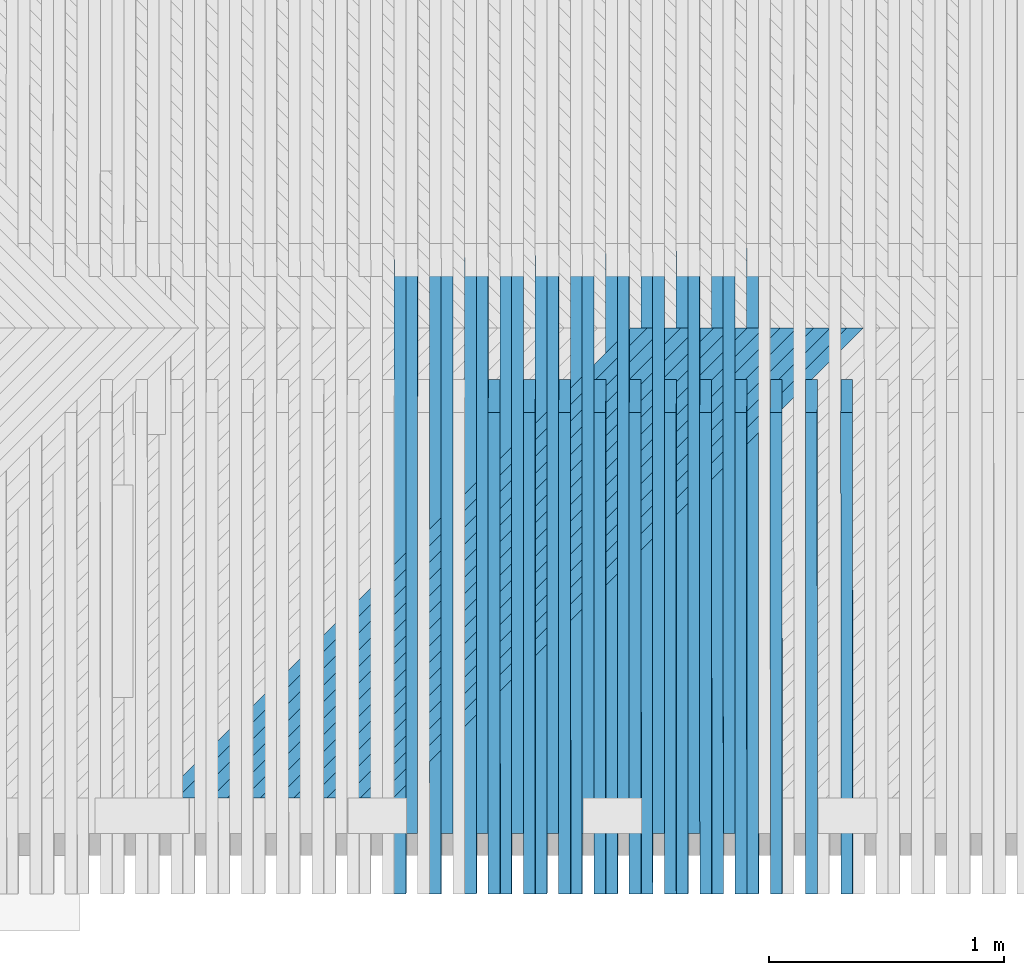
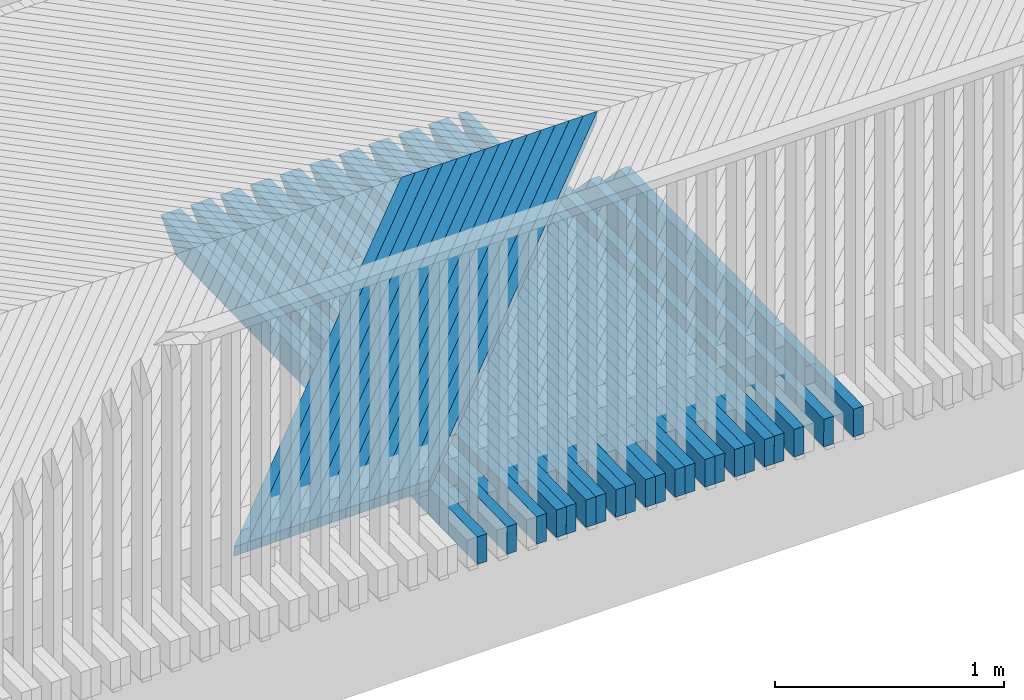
# One storey, part 16 of 47: 46 beams.
"""IFC2X3 building model written with IfcOpenShell, lengths in millimetres."""

from ifc_helpers import new_model, si_unit, frame, origin_with_axes, place, context, subcontext, project, spatial, faceted_brep, material, type_object, element, save


model = new_model("IFC2X3")

# Units and contexts
model_context = context("Model", 3, precision=1e-05, world=origin_with_axes())
body_context = subcontext(model_context, "Body", "Model", "MODEL_VIEW")
ifc_project = project(units=[si_unit("LENGTHUNIT", "METRE", prefix="MILLI"), si_unit("AREAUNIT", "SQUARE_METRE"), si_unit("VOLUMEUNIT", "CUBIC_METRE"), si_unit("MASSUNIT", "GRAM", prefix="KILO"), si_unit("TIMEUNIT", "SECOND"), si_unit("PLANEANGLEUNIT", "RADIAN"), si_unit("SOLIDANGLEUNIT", "STERADIAN"), si_unit("THERMODYNAMICTEMPERATUREUNIT", "DEGREE_CELSIUS"), si_unit("LUMINOUSINTENSITYUNIT", "LUMEN")], contexts=[model_context])

# Site, building, storey
site_placement = place(None, origin_with_axes())
site = spatial("IfcSite", under=ifc_project, at=site_placement, Name="Undefined", CompositionType="ELEMENT")
building_placement = place(site_placement, origin_with_axes())
building = spatial("IfcBuilding", under=site, at=building_placement, Name="Undefined", CompositionType="ELEMENT")
storey_placement = place(building_placement, origin_with_axes())
storey = spatial("IfcBuildingStorey", under=building, at=storey_placement, Name="Undefined", CompositionType="ELEMENT", Elevation=0.0)

# Beams
ifc_material = material(Name="TIMBER/Timber_Undefined")
beam_type_1 = type_object("IfcBeamType", Name="150*50", PredefinedType="NOTDEFINED")
for number, where, z_axis, x_axis, name in (
    (1, (2098.93906252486, 59958.5561921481, 3059.06393570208), (-0.00979842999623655, -0.0199960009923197, 0.999752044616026), (-0.000195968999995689, 0.999800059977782, 0.0199950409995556), "BEAM"),
    (2, (2248.96079964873, 59958.5561921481, 3060.51597974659), (-0.00954925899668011, -0.0199960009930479, 0.999754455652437), (-0.000190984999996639, 0.999800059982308, 0.0199950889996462), "BEAM"),
):
    element("IfcBeam", number, at=place(storey_placement, frame(where, z_axis=z_axis, x_axis=x_axis)), inside=storey, type_object=beam_type_1, material=ifc_material, Name=name, ObjectType="150*50", context=body_context, shape_type="Brep", body=[
        faceted_brep([(6.18456397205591e-09, -24.9999999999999, -75.0000000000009), (-6.1918399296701e-09, -24.9999999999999, 74.9999999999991), (-6.19911588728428e-09, 25.0, 75.0), (6.18456397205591e-09, 24.9999999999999, -75.0), (2633.00494983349, 25.0000000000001, -75.0000000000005), (2633.00495050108, -24.9999999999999, -75.0000000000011), (2768.59248707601, -25.0, 60.5875366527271), (2408.42499905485, -25.0, 74.9999999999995), (2408.42501428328, 25.0000000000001, 74.9999999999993), (2768.5924870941, 25.0, 60.5875375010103)], [[[0, 1, 2, 3]], [[0, 3, 4, 5]], [[1, 0, 5, 6, 7]], [[2, 1, 7, 8]], [[4, 3, 2, 8, 9]], [[5, 4, 9, 6]], [[8, 7, 6, 9]]]),
    ])
beam_1_placement = place(storey_placement, frame((2148.89613649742, 60216.5046076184, 3064.71082884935), z_axis=(-0.00971537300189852, -0.019996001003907, 0.999752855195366), x_axis=(-0.000194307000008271, 0.999800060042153, 0.0199950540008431)))
element("IfcBeam", 3, at=beam_1_placement, inside=storey, type_object=beam_type_1, material=ifc_material, Name="BEAM", ObjectType="150*50", context=body_context, shape_type="Brep", body=[
    faceted_brep([(6.18456397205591e-09, -24.9999999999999, -75.0000000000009), (-6.1918399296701e-09, -24.9999999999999, 74.9999999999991), (-6.19911588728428e-09, 25.0, 75.0), (6.18456397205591e-09, 24.9999999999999, -75.0), (2375.00494220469, 24.9999999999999, -75.0000000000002), (2375.00494218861, -25.0, -75.0), (2510.59248711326, -25.0, 60.5875455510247), (2150.42518973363, -25.0, 75.0000000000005), (2150.42518840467, 25.0, 74.9999999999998), (2510.59248707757, 25.0, 60.5875454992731)], [[[0, 1, 2, 3]], [[0, 3, 4, 5]], [[1, 0, 5, 6, 7]], [[2, 1, 7, 8]], [[4, 3, 2, 8, 9]], [[5, 4, 9, 6]], [[8, 7, 6, 9]]]),
])
beam_2_placement = place(storey_placement, frame((2398.98289401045, 59958.5561921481, 3061.93063337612), z_axis=(-0.00930008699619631, -0.0199960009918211, 0.999756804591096), x_axis=(-0.000186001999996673, 0.999800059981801, 0.019995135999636)))
element("IfcBeam", 4, at=beam_2_placement, inside=storey, type_object=beam_type_1, material=ifc_material, Name="BEAM", ObjectType="150*50", context=body_context, shape_type="Brep", body=[
    faceted_brep([(6.18456397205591e-09, -24.9999999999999, -75.0000000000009), (-6.1918399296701e-09, -24.9999999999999, 74.9999999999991), (-6.19911588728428e-09, 25.0, 75.0), (6.18456397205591e-09, 24.9999999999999, -75.0), (2633.00494983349, 25.0000000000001, -75.0000000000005), (2633.00495050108, -24.9999999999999, -75.0000000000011), (2768.59248707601, -25.0, 60.5875366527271), (2408.42499905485, -25.0, 74.9999999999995), (2408.42501428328, 25.0000000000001, 74.9999999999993), (2768.5924870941, 25.0, 60.5875375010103)], [[[0, 1, 2, 3]], [[0, 3, 4, 5]], [[1, 0, 5, 6, 7]], [[2, 1, 7, 8]], [[4, 3, 2, 8, 9]], [[5, 4, 9, 6]], [[8, 7, 6, 9]]]),
])
beam_3_placement = place(storey_placement, frame((2298.91927946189, 60216.5046076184, 3066.15042176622), z_axis=(-0.00946620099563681, -0.0199960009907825, 0.99975524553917), x_axis=(-0.000189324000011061, 0.999800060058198, 0.0199951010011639)))
element("IfcBeam", 5, at=beam_3_placement, inside=storey, type_object=beam_type_1, material=ifc_material, Name="BEAM", ObjectType="150*50", context=body_context, shape_type="Brep", body=[
    faceted_brep([(6.18456397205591e-09, -24.9999999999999, -75.0000000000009), (-6.1918399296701e-09, -24.9999999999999, 74.9999999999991), (-6.19911588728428e-09, 25.0, 75.0), (6.18456397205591e-09, 24.9999999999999, -75.0), (2375.00494220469, 24.9999999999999, -75.0000000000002), (2375.00494218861, -25.0, -75.0), (2510.59248711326, -25.0, 60.5875455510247), (2150.42518973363, -25.0, 75.0000000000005), (2150.42518840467, 25.0, 74.9999999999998), (2510.59248707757, 25.0, 60.5875454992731)], [[[0, 1, 2, 3]], [[0, 3, 4, 5]], [[1, 0, 5, 6, 7]], [[2, 1, 7, 8]], [[4, 3, 2, 8, 9]], [[5, 4, 9, 6]], [[8, 7, 6, 9]]]),
])
beam_4_placement = place(storey_placement, frame((2549.00533629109, 59958.5561921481, 3063.30789650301), z_axis=(-0.0090509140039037, -0.0199960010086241, 0.999759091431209), x_axis=(-0.000181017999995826, 0.999800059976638, 0.0199951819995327)))
element("IfcBeam", 6, at=beam_4_placement, inside=storey, type_object=beam_type_1, material=ifc_material, Name="BEAM", ObjectType="150*50", context=body_context, shape_type="Brep", body=[
    faceted_brep([(6.18456397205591e-09, -24.9999999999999, -75.0000000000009), (-6.1918399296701e-09, -24.9999999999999, 74.9999999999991), (-6.19911588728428e-09, 25.0, 75.0), (6.18456397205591e-09, 24.9999999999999, -75.0), (2633.00494983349, 25.0000000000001, -75.0000000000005), (2633.00495050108, -24.9999999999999, -75.0000000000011), (2768.59248707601, -25.0, 60.5875366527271), (2408.42499905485, -25.0, 74.9999999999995), (2408.42501428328, 25.0000000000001, 74.9999999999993), (2768.5924870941, 25.0, 60.5875375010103)], [[[0, 1, 2, 3]], [[0, 3, 4, 5]], [[1, 0, 5, 6, 7]], [[2, 1, 7, 8]], [[4, 3, 2, 8, 9]], [[5, 4, 9, 6]], [[8, 7, 6, 9]]]),
])
beam_5_placement = place(storey_placement, frame((2448.94277656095, 60216.5046076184, 3067.55262391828), z_axis=(-0.00921702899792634, -0.019996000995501, 0.999757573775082), x_axis=(-0.000184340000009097, 0.9998000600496, 0.019995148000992)))
element("IfcBeam", 7, at=beam_5_placement, inside=storey, type_object=beam_type_1, material=ifc_material, Name="BEAM", ObjectType="150*50", context=body_context, shape_type="Brep", body=[
    faceted_brep([(6.18456397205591e-09, -24.9999999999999, -75.0000000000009), (-6.1918399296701e-09, -24.9999999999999, 74.9999999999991), (-6.19911588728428e-09, 25.0, 75.0), (6.18456397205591e-09, 24.9999999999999, -75.0), (2375.00494220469, 24.9999999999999, -75.0000000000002), (2375.00494218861, -25.0, -75.0), (2510.59248711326, -25.0, 60.5875455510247), (2150.42518973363, -25.0, 75.0000000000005), (2150.42518840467, 25.0, 74.9999999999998), (2510.59248707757, 25.0, 60.5875454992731)], [[[0, 1, 2, 3]], [[0, 3, 4, 5]], [[1, 0, 5, 6, 7]], [[2, 1, 7, 8]], [[4, 3, 2, 8, 9]], [[5, 4, 9, 6]], [[8, 7, 6, 9]]]),
])
beam_6_placement = place(storey_placement, frame((2498.96882571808, 59958.5561921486, 3062.85402812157), z_axis=(-0.00921702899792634, -0.019996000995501, 0.999757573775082), x_axis=(-0.000184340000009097, 0.9998000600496, 0.019995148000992)))
element("IfcBeam", 8, at=beam_6_placement, inside=storey, type_object=beam_type_1, material=ifc_material, Name="BEAM", ObjectType="150*50", context=body_context, shape_type="Brep", body=[
    faceted_brep([(6.18456397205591e-09, -24.9999999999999, -75.0000000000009), (-6.1918399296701e-09, -24.9999999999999, 74.9999999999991), (-6.19911588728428e-09, 25.0, 75.0), (6.18456397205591e-09, 24.9999999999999, -75.0), (2186.42645915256, -25.0000000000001, -75.0), (2047.96936034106, -25.0000000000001, 75.0), (2047.96935975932, 25.0, 75.0), (2186.42645864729, 25.0, -75.0)], [[[0, 1, 2, 3]], [[1, 0, 4, 5]], [[2, 1, 5, 6]], [[3, 2, 6, 7]], [[0, 3, 7, 4]], [[5, 4, 7, 6]]]),
])
beam_7_placement = place(storey_placement, frame((2699.0281171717, 59958.5561921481, 3064.64776904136), z_axis=(-0.00880174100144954, -0.0199960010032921, 0.999761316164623), x_axis=(-0.000176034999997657, 0.999800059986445, 0.0199952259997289)))
element("IfcBeam", 9, at=beam_7_placement, inside=storey, type_object=beam_type_1, material=ifc_material, Name="BEAM", ObjectType="150*50", context=body_context, shape_type="Brep", body=[
    faceted_brep([(6.18456397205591e-09, -24.9999999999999, -75.0000000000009), (-6.1918399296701e-09, -24.9999999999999, 74.9999999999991), (-6.19911588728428e-09, 25.0, 75.0), (6.18456397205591e-09, 24.9999999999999, -75.0), (2633.00494983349, 25.0000000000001, -75.0000000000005), (2633.00495050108, -24.9999999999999, -75.0000000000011), (2768.59248707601, -25.0, 60.5875366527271), (2408.42499905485, -25.0, 74.9999999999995), (2408.42501428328, 25.0000000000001, 74.9999999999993), (2768.5924870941, 25.0, 60.5875375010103)], [[[0, 1, 2, 3]], [[0, 3, 4, 5]], [[1, 0, 5, 6, 7]], [[2, 1, 7, 8]], [[4, 3, 2, 8, 9]], [[5, 4, 9, 6]], [[8, 7, 6, 9]]]),
])
beam_8_placement = place(storey_placement, frame((2598.96661847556, 60216.5046076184, 3068.91743521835), z_axis=(-0.00896785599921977, -0.0199960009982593, 0.999759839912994), x_axis=(-0.000179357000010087, 0.999800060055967, 0.0199951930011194)))
element("IfcBeam", 10, at=beam_8_placement, inside=storey, type_object=beam_type_1, material=ifc_material, Name="BEAM", ObjectType="150*50", context=body_context, shape_type="Brep", body=[
    faceted_brep([(6.18456397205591e-09, -24.9999999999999, -75.0000000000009), (-6.1918399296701e-09, -24.9999999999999, 74.9999999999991), (-6.19911588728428e-09, 25.0, 75.0), (6.18456397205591e-09, 24.9999999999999, -75.0), (2375.00494220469, 24.9999999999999, -75.0000000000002), (2375.00494218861, -25.0, -75.0), (2510.59248711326, -25.0, 60.5875455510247), (2150.42518973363, -25.0, 75.0000000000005), (2150.42518840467, 25.0, 74.9999999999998), (2510.59248707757, 25.0, 60.5875454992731)], [[[0, 1, 2, 3]], [[0, 3, 4, 5]], [[1, 0, 5, 6, 7]], [[2, 1, 7, 8]], [[4, 3, 2, 8, 9]], [[5, 4, 9, 6]], [[8, 7, 6, 9]]]),
])
beam_9_placement = place(storey_placement, frame((2648.99149503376, 59958.5561921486, 3064.20637142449), z_axis=(-0.00896785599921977, -0.0199960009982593, 0.999759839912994), x_axis=(-0.000179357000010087, 0.999800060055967, 0.0199951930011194)))
element("IfcBeam", 11, at=beam_9_placement, inside=storey, type_object=beam_type_1, material=ifc_material, Name="BEAM", ObjectType="150*50", context=body_context, shape_type="Brep", body=[
    faceted_brep([(6.18456397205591e-09, -24.9999999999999, -75.0000000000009), (-6.1918399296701e-09, -24.9999999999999, 74.9999999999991), (-6.19911588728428e-09, 25.0, 75.0), (6.18456397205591e-09, 24.9999999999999, -75.0), (2186.42645915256, -25.0000000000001, -75.0), (2047.96936034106, -25.0000000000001, 75.0), (2047.96935975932, 25.0, 75.0), (2186.42645864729, 25.0, -75.0)], [[[0, 1, 2, 3]], [[1, 0, 4, 5]], [[2, 1, 5, 6]], [[3, 2, 6, 7]], [[0, 3, 7, 4]], [[5, 4, 7, 6]]]),
])
beam_10_placement = place(storey_placement, frame((2849.05122733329, 59958.5561921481, 3065.95025090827), z_axis=(-0.00855256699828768, -0.0199960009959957, 0.999763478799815), x_axis=(-0.000171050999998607, 0.999800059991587, 0.0199952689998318)))
element("IfcBeam", 12, at=beam_10_placement, inside=storey, type_object=beam_type_1, material=ifc_material, Name="BEAM", ObjectType="150*50", context=body_context, shape_type="Brep", body=[
    faceted_brep([(6.18456397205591e-09, -24.9999999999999, -75.0000000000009), (-6.1918399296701e-09, -24.9999999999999, 74.9999999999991), (-6.19911588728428e-09, 25.0, 75.0), (6.18456397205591e-09, 24.9999999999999, -75.0), (2633.00494983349, 25.0000000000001, -75.0000000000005), (2633.00495050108, -24.9999999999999, -75.0000000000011), (2768.59248707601, -25.0, 60.5875366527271), (2408.42499905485, -25.0, 74.9999999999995), (2408.42501428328, 25.0000000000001, 74.9999999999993), (2768.5924870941, 25.0, 60.5875375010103)], [[[0, 1, 2, 3]], [[0, 3, 4, 5]], [[1, 0, 5, 6, 7]], [[2, 1, 7, 8]], [[4, 3, 2, 8, 9]], [[5, 4, 9, 6]], [[8, 7, 6, 9]]]),
])
beam_11_placement = place(storey_placement, frame((2748.99079588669, 60216.5046076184, 3070.24485558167), z_axis=(-0.00871868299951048, -0.0199960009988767, 0.999762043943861), x_axis=(-0.000174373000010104, 0.999800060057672, 0.0199952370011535)))
element("IfcBeam", 13, at=beam_11_placement, inside=storey, type_object=beam_type_1, material=ifc_material, Name="BEAM", ObjectType="150*50", context=body_context, shape_type="Brep", body=[
    faceted_brep([(6.18456397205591e-09, -24.9999999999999, -75.0000000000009), (-6.1918399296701e-09, -24.9999999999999, 74.9999999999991), (-6.19911588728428e-09, 25.0, 75.0), (6.18456397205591e-09, 24.9999999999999, -75.0), (2375.00494220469, 24.9999999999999, -75.0000000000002), (2375.00494218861, -25.0, -75.0), (2510.59248711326, -25.0, 60.5875455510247), (2150.42518973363, -25.0, 75.0000000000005), (2150.42518840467, 25.0, 74.9999999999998), (2510.59248707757, 25.0, 60.5875454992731)], [[[0, 1, 2, 3]], [[0, 3, 4, 5]], [[1, 0, 5, 6, 7]], [[2, 1, 7, 8]], [[4, 3, 2, 8, 9]], [[5, 4, 9, 6]], [[8, 7, 6, 9]]]),
])
beam_12_placement = place(storey_placement, frame((2799.01449673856, 59958.5561921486, 3065.52132408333), z_axis=(-0.00871868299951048, -0.0199960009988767, 0.999762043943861), x_axis=(-0.000174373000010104, 0.999800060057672, 0.0199952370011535)))
element("IfcBeam", 14, at=beam_12_placement, inside=storey, type_object=beam_type_1, material=ifc_material, Name="BEAM", ObjectType="150*50", context=body_context, shape_type="Brep", body=[
    faceted_brep([(6.18456397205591e-09, -24.9999999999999, -75.0000000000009), (-6.1918399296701e-09, -24.9999999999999, 74.9999999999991), (-6.19911588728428e-09, 25.0, 75.0), (6.18456397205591e-09, 24.9999999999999, -75.0), (2186.42645915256, -25.0000000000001, -75.0), (2047.96936034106, -25.0000000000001, 75.0), (2047.96935975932, 25.0, 75.0), (2186.42645864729, 25.0, -75.0)], [[[0, 1, 2, 3]], [[1, 0, 4, 5]], [[2, 1, 5, 6]], [[3, 2, 6, 7]], [[0, 3, 7, 4]], [[5, 4, 7, 6]]]),
])
beam_13_placement = place(storey_placement, frame((2999.07465745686, 59958.5561921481, 3067.21534202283), z_axis=(-0.00830339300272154, -0.0199960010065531, 0.999765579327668), x_axis=(-0.000166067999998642, 0.999800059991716, 0.0199953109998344)))
element("IfcBeam", 15, at=beam_13_placement, inside=storey, type_object=beam_type_1, material=ifc_material, Name="BEAM", ObjectType="150*50", context=body_context, shape_type="Brep", body=[
    faceted_brep([(6.18456397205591e-09, -24.9999999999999, -75.0000000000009), (-6.1918399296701e-09, -24.9999999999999, 74.9999999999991), (-6.19911588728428e-09, 25.0, 75.0), (6.18456397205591e-09, 24.9999999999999, -75.0), (2633.00494983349, 25.0000000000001, -75.0000000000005), (2633.00495050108, -24.9999999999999, -75.0000000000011), (2768.59248707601, -25.0, 60.5875366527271), (2408.42499905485, -25.0, 74.9999999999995), (2408.42501428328, 25.0000000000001, 74.9999999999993), (2768.5924870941, 25.0, 60.5875375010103)], [[[0, 1, 2, 3]], [[0, 3, 4, 5]], [[1, 0, 5, 6, 7]], [[2, 1, 7, 8]], [[4, 3, 2, 8, 9]], [[5, 4, 9, 6]], [[8, 7, 6, 9]]]),
])
beam_14_placement = place(storey_placement, frame((2899.01529947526, 60216.5046076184, 3071.53488492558), z_axis=(-0.0084695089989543, -0.0199960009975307, 0.999764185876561), x_axis=(-0.000169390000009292, 0.999800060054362, 0.0199952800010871)))
element("IfcBeam", 16, at=beam_14_placement, inside=storey, type_object=beam_type_1, material=ifc_material, Name="BEAM", ObjectType="150*50", context=body_context, shape_type="Brep", body=[
    faceted_brep([(6.18456397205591e-09, -24.9999999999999, -75.0000000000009), (-6.1918399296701e-09, -24.9999999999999, 74.9999999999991), (-6.19911588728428e-09, 25.0, 75.0), (6.18456397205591e-09, 24.9999999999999, -75.0), (2375.00494220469, 24.9999999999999, -75.0000000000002), (2375.00494218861, -25.0, -75.0), (2510.59248711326, -25.0, 60.5875455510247), (2150.42518973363, -25.0, 75.0000000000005), (2150.42518840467, 25.0, 74.9999999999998), (2510.59248707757, 25.0, 60.5875454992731)], [[[0, 1, 2, 3]], [[0, 3, 4, 5]], [[1, 0, 5, 6, 7]], [[2, 1, 7, 8]], [[4, 3, 2, 8, 9]], [[5, 4, 9, 6]], [[8, 7, 6, 9]]]),
])
beam_15_placement = place(storey_placement, frame((2949.03782151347, 59958.5561921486, 3066.79888601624), z_axis=(-0.0084695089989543, -0.0199960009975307, 0.999764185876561), x_axis=(-0.000169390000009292, 0.999800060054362, 0.0199952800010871)))
element("IfcBeam", 17, at=beam_15_placement, inside=storey, type_object=beam_type_1, material=ifc_material, Name="BEAM", ObjectType="150*50", context=body_context, shape_type="Brep", body=[
    faceted_brep([(6.18456397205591e-09, -24.9999999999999, -75.0000000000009), (-6.1918399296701e-09, -24.9999999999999, 74.9999999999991), (-6.19911588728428e-09, 25.0, 75.0), (6.18456397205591e-09, 24.9999999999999, -75.0), (2186.42645915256, -25.0000000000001, -75.0), (2047.96936034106, -25.0000000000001, 75.0), (2047.96935975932, 25.0, 75.0), (2186.42645864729, 25.0, -75.0)], [[[0, 1, 2, 3]], [[1, 0, 4, 5]], [[2, 1, 5, 6]], [[3, 2, 6, 7]], [[0, 3, 7, 4]], [[5, 4, 7, 6]]]),
])
beam_16_placement = place(storey_placement, frame((3149.09839822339, 59958.5561921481, 3068.44304230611), z_axis=(-0.00805421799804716, -0.0199960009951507, 0.999767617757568), x_axis=(-0.000161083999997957, 0.999800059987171, 0.0199953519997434)))
element("IfcBeam", 18, at=beam_16_placement, inside=storey, type_object=beam_type_1, material=ifc_material, Name="BEAM", ObjectType="150*50", context=body_context, shape_type="Brep", body=[
    faceted_brep([(6.18456397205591e-09, -24.9999999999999, -75.0000000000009), (-6.1918399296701e-09, -24.9999999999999, 74.9999999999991), (-6.19911588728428e-09, 25.0, 75.0), (6.18456397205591e-09, 24.9999999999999, -75.0), (2633.00494983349, 25.0000000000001, -75.0000000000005), (2633.00495050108, -24.9999999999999, -75.0000000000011), (2768.59248707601, -25.0, 60.5875366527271), (2408.42499905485, -25.0, 74.9999999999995), (2408.42501428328, 25.0000000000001, 74.9999999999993), (2768.5924870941, 25.0, 60.5875375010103)], [[[0, 1, 2, 3]], [[0, 3, 4, 5]], [[1, 0, 5, 6, 7]], [[2, 1, 7, 8]], [[4, 3, 2, 8, 9]], [[5, 4, 9, 6]], [[8, 7, 6, 9]]]),
])
beam_17_placement = place(storey_placement, frame((3049.04011992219, 60216.5046076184, 3072.78752317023), z_axis=(-0.00822033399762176, -0.0199960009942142, 0.999766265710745), x_axis=(-0.000164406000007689, 0.999800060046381, 0.0199953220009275)))
element("IfcBeam", 19, at=beam_17_placement, inside=storey, type_object=beam_type_1, material=ifc_material, Name="BEAM", ObjectType="150*50", context=body_context, shape_type="Brep", body=[
    faceted_brep([(6.18456397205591e-09, -24.9999999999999, -75.0000000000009), (-6.1918399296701e-09, -24.9999999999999, 74.9999999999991), (-6.19911588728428e-09, 25.0, 75.0), (6.18456397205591e-09, 24.9999999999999, -75.0), (2375.00494220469, 24.9999999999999, -75.0000000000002), (2375.00494218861, -25.0, -75.0), (2510.59248711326, -25.0, 60.5875455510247), (2150.42518973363, -25.0, 75.0000000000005), (2150.42518840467, 25.0, 74.9999999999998), (2510.59248707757, 25.0, 60.5875454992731)], [[[0, 1, 2, 3]], [[0, 3, 4, 5]], [[1, 0, 5, 6, 7]], [[2, 1, 7, 8]], [[4, 3, 2, 8, 9]], [[5, 4, 9, 6]], [[8, 7, 6, 9]]]),
])
beam_18_placement = place(storey_placement, frame((3099.06146003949, 59958.5561921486, 3068.03905714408), z_axis=(-0.00822033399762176, -0.0199960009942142, 0.999766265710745), x_axis=(-0.000164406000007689, 0.999800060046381, 0.0199953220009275)))
element("IfcBeam", 20, at=beam_18_placement, inside=storey, type_object=beam_type_1, material=ifc_material, Name="BEAM", ObjectType="150*50", context=body_context, shape_type="Brep", body=[
    faceted_brep([(6.18456397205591e-09, -24.9999999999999, -75.0000000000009), (-6.1918399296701e-09, -24.9999999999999, 74.9999999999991), (-6.19911588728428e-09, 25.0, 75.0), (6.18456397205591e-09, 24.9999999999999, -75.0), (2186.42645915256, -25.0000000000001, -75.0), (2047.96936034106, -25.0000000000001, 75.0), (2047.96935975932, 25.0, 75.0), (2186.42645864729, 25.0, -75.0)], [[[0, 1, 2, 3]], [[1, 0, 4, 5]], [[2, 1, 5, 6]], [[3, 2, 6, 7]], [[0, 3, 7, 4]], [[5, 4, 7, 6]]]),
])
beam_19_placement = place(storey_placement, frame((3299.12244031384, 59958.5561921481, 3069.63335168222), z_axis=(-0.0078050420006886, -0.0199960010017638, 0.99976959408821), x_axis=(-0.000156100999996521, 0.999800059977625, 0.0199953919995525)))
element("IfcBeam", 21, at=beam_19_placement, inside=storey, type_object=beam_type_1, material=ifc_material, Name="BEAM", ObjectType="150*50", context=body_context, shape_type="Brep", body=[
    faceted_brep([(6.18456397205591e-09, -24.9999999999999, -75.0000000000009), (-6.1918399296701e-09, -24.9999999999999, 74.9999999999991), (-6.19911588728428e-09, 25.0, 75.0), (6.18456397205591e-09, 24.9999999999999, -75.0), (2633.00494983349, 25.0000000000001, -75.0000000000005), (2633.00495050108, -24.9999999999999, -75.0000000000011), (2768.59248707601, -25.0, 60.5875366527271), (2408.42499905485, -25.0, 74.9999999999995), (2408.42501428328, 25.0000000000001, 74.9999999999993), (2768.5924870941, 25.0, 60.5875375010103)], [[[0, 1, 2, 3]], [[0, 3, 4, 5]], [[1, 0, 5, 6, 7]], [[2, 1, 7, 8]], [[4, 3, 2, 8, 9]], [[5, 4, 9, 6]], [[8, 7, 6, 9]]]),
])
beam_20_placement = place(storey_placement, frame((3199.06524790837, 60216.5046076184, 3074.00277023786), z_axis=(-0.00797115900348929, -0.0199960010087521, 0.999768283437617), x_axis=(-0.000159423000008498, 0.999800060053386, 0.0199953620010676)))
element("IfcBeam", 22, at=beam_20_placement, inside=storey, type_object=beam_type_1, material=ifc_material, Name="BEAM", ObjectType="150*50", context=body_context, shape_type="Brep", body=[
    faceted_brep([(6.18456397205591e-09, -24.9999999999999, -75.0000000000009), (-6.1918399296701e-09, -24.9999999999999, 74.9999999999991), (-6.19911588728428e-09, 25.0, 75.0), (6.18456397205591e-09, 24.9999999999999, -75.0), (2375.00494220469, 24.9999999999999, -75.0000000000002), (2375.00494218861, -25.0, -75.0), (2510.59248711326, -25.0, 60.5875455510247), (2150.42518973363, -25.0, 75.0000000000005), (2150.42518840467, 25.0, 74.9999999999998), (2510.59248707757, 25.0, 60.5875454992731)], [[[0, 1, 2, 3]], [[0, 3, 4, 5]], [[1, 0, 5, 6, 7]], [[2, 1, 7, 8]], [[4, 3, 2, 8, 9]], [[5, 4, 9, 6]], [[8, 7, 6, 9]]]),
])
beam_21_placement = place(storey_placement, frame((3249.08540299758, 59958.5561921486, 3069.24183738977), z_axis=(-0.00797115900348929, -0.0199960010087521, 0.999768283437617), x_axis=(-0.000159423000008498, 0.999800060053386, 0.0199953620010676)))
element("IfcBeam", 23, at=beam_21_placement, inside=storey, type_object=beam_type_1, material=ifc_material, Name="BEAM", ObjectType="150*50", context=body_context, shape_type="Brep", body=[
    faceted_brep([(6.18456397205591e-09, -24.9999999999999, -75.0000000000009), (-6.1918399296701e-09, -24.9999999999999, 74.9999999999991), (-6.19911588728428e-09, 25.0, 75.0), (6.18456397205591e-09, 24.9999999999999, -75.0), (2186.42645915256, -25.0000000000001, -75.0), (2047.96936034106, -25.0000000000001, 75.0), (2047.96935975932, 25.0, 75.0), (2186.42645864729, 25.0, -75.0)], [[[0, 1, 2, 3]], [[1, 0, 4, 5]], [[2, 1, 5, 6]], [[3, 2, 6, 7]], [[0, 3, 7, 4]], [[5, 4, 7, 6]]]),
])
beam_22_placement = place(storey_placement, frame((3449.14677440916, 59958.5561921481, 3070.78627007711), z_axis=(-0.0075558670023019, -0.0199960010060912, 0.999771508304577), x_axis=(-0.000151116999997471, 0.999800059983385, 0.0199954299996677)))
element("IfcBeam", 24, at=beam_22_placement, inside=storey, type_object=beam_type_1, material=ifc_material, Name="BEAM", ObjectType="150*50", context=body_context, shape_type="Brep", body=[
    faceted_brep([(6.18456397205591e-09, -24.9999999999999, -75.0000000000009), (-6.1918399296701e-09, -24.9999999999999, 74.9999999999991), (-6.19911588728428e-09, 25.0, 75.0), (6.18456397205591e-09, 24.9999999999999, -75.0), (2633.00494983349, 25.0000000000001, -75.0000000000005), (2633.00495050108, -24.9999999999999, -75.0000000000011), (2768.59248707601, -25.0, 60.5875366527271), (2408.42499905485, -25.0, 74.9999999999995), (2408.42501428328, 25.0000000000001, 74.9999999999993), (2768.5924870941, 25.0, 60.5875375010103)], [[[0, 1, 2, 3]], [[0, 3, 4, 5]], [[1, 0, 5, 6, 7]], [[2, 1, 7, 8]], [[4, 3, 2, 8, 9]], [[5, 4, 9, 6]], [[8, 7, 6, 9]]]),
])
beam_23_placement = place(storey_placement, frame((3349.09067411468, 60216.5046076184, 3075.18062605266), z_axis=(-0.00772198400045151, -0.0199960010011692, 0.999770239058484), x_axis=(-0.000154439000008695, 0.999800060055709, 0.0199954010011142)))
element("IfcBeam", 25, at=beam_23_placement, inside=storey, type_object=beam_type_1, material=ifc_material, Name="BEAM", ObjectType="150*50", context=body_context, shape_type="Brep", body=[
    faceted_brep([(6.18456397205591e-09, -24.9999999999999, -75.0000000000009), (-6.1918399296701e-09, -24.9999999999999, 74.9999999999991), (-6.19911588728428e-09, 25.0, 75.0), (6.18456397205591e-09, 24.9999999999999, -75.0), (2375.00494220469, 24.9999999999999, -75.0000000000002), (2375.00494218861, -25.0, -75.0), (2510.59248711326, -25.0, 60.5875455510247), (2150.42518973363, -25.0, 75.0000000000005), (2150.42518840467, 25.0, 74.9999999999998), (2510.59248707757, 25.0, 60.5875454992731)], [[[0, 1, 2, 3]], [[0, 3, 4, 5]], [[1, 0, 5, 6, 7]], [[2, 1, 7, 8]], [[4, 3, 2, 8, 9]], [[5, 4, 9, 6]], [[8, 7, 6, 9]]]),
])
beam_24_placement = place(storey_placement, frame((3399.10964106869, 59958.5561921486, 3070.40722667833), z_axis=(-0.00772198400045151, -0.0199960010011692, 0.999770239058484), x_axis=(-0.000154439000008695, 0.999800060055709, 0.0199954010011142)))
element("IfcBeam", 26, at=beam_24_placement, inside=storey, type_object=beam_type_1, material=ifc_material, Name="BEAM", ObjectType="150*50", context=body_context, shape_type="Brep", body=[
    faceted_brep([(6.18456397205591e-09, -24.9999999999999, -75.0000000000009), (-6.1918399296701e-09, -24.9999999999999, 74.9999999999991), (-6.19911588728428e-09, 25.0, 75.0), (6.18456397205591e-09, 24.9999999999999, -75.0), (2186.42645915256, -25.0000000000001, -75.0), (2047.96936034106, -25.0000000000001, 75.0), (2047.96935975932, 25.0, 75.0), (2186.42645864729, 25.0, -75.0)], [[[0, 1, 2, 3]], [[1, 0, 4, 5]], [[2, 1, 5, 6]], [[3, 2, 6, 7]], [[0, 3, 7, 4]], [[5, 4, 7, 6]]]),
])
beam_25_placement = place(storey_placement, frame((3599.17139119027, 59958.5561921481, 3071.90179741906), z_axis=(-0.00730669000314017, -0.0199960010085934, 0.999773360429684), x_axis=(-0.000146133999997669, 0.999800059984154, 0.0199954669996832)))
element("IfcBeam", 27, at=beam_25_placement, inside=storey, type_object=beam_type_1, material=ifc_material, Name="BEAM", ObjectType="150*50", context=body_context, shape_type="Brep", body=[
    faceted_brep([(6.18456397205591e-09, -24.9999999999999, -75.0000000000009), (-6.1918399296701e-09, -24.9999999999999, 74.9999999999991), (-6.19911588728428e-09, 25.0, 75.0), (6.18456397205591e-09, 24.9999999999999, -75.0), (2633.00494983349, 25.0000000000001, -75.0000000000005), (2633.00495050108, -24.9999999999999, -75.0000000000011), (2768.59248707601, -25.0, 60.5875366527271), (2408.42499905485, -25.0, 74.9999999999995), (2408.42501428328, 25.0000000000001, 74.9999999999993), (2768.5924870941, 25.0, 60.5875375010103)], [[[0, 1, 2, 3]], [[0, 3, 4, 5]], [[1, 0, 5, 6, 7]], [[2, 1, 7, 8]], [[4, 3, 2, 8, 9]], [[5, 4, 9, 6]], [[8, 7, 6, 9]]]),
])
beam_26_placement = place(storey_placement, frame((3499.11638922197, 60216.5046076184, 3076.32109054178), z_axis=(-0.00747280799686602, -0.0199960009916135, 0.999772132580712), x_axis=(-0.000149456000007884, 0.999800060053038, 0.0199954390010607)))
element("IfcBeam", 28, at=beam_26_placement, inside=storey, type_object=beam_type_1, material=ifc_material, Name="BEAM", ObjectType="150*50", context=body_context, shape_type="Brep", body=[
    faceted_brep([(6.18456397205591e-09, -24.9999999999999, -75.0000000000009), (-6.1918399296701e-09, -24.9999999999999, 74.9999999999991), (-6.19911588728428e-09, 25.0, 75.0), (6.18456397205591e-09, 24.9999999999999, -75.0), (2375.00494220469, 24.9999999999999, -75.0000000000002), (2375.00494218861, -25.0, -75.0), (2510.59248711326, -25.0, 60.5875455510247), (2150.42518973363, -25.0, 75.0000000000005), (2150.42518840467, 25.0, 74.9999999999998), (2510.59248707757, 25.0, 60.5875454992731)], [[[0, 1, 2, 3]], [[0, 3, 4, 5]], [[1, 0, 5, 6, 7]], [[2, 1, 7, 8]], [[4, 3, 2, 8, 9]], [[5, 4, 9, 6]], [[8, 7, 6, 9]]]),
])
for number, where, z_axis, x_axis, name in (
    (29, (3549.13416493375, 59958.5561921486, 3071.53522493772), (-0.00747280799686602, -0.0199960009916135, 0.999772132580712), (-0.000149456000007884, 0.999800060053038, 0.0199954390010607), "BEAM"),
    (30, (3699.15896527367, 59958.5561921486, 3072.62583209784), (-0.0072236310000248, -0.0199960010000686, 0.999773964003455), (-0.00014447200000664, 0.999800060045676, 0.0199954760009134), "BEAM"),
    (31, (3849.18403276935, 59958.5561921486, 3073.67904809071), (-0.00697445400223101, -0.0199960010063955, 0.99977573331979), (-0.000139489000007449, 0.999800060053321, 0.0199955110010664), "BEAM"),
    (32, (3999.20935810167, 59958.5561921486, 3074.6948728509), (-0.00672527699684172, -0.0199960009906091, 0.999777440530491), (-0.000134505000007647, 0.999800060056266, 0.0199955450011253), "BEAM"),
):
    element("IfcBeam", number, at=place(storey_placement, frame(where, z_axis=z_axis, x_axis=x_axis)), inside=storey, type_object=beam_type_1, material=ifc_material, Name=name, ObjectType="150*50", context=body_context, shape_type="Brep", body=[
        faceted_brep([(6.18456397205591e-09, -24.9999999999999, -75.0000000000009), (-6.1918399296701e-09, -24.9999999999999, 74.9999999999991), (-6.19911588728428e-09, 25.0, 75.0), (6.18456397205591e-09, 24.9999999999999, -75.0), (2186.42645915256, -25.0000000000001, -75.0), (2047.96936034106, -25.0000000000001, 75.0), (2047.96935975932, 25.0, 75.0), (2186.42645864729, 25.0, -75.0)], [[[0, 1, 2, 3]], [[1, 0, 4, 5]], [[2, 1, 5, 6]], [[3, 2, 6, 7]], [[0, 3, 7, 4]], [[5, 4, 7, 6]]]),
    ])
beam_type_2 = type_object("IfcBeamType", Name="50*50", PredefinedType="NOTDEFINED")
for number, where, z_axis, x_axis, name in (
    (33, (4033.82969771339, 62364.5001003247, 3223.05909950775), (0.707183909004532, -0.706981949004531, -0.00821234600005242), (-0.706979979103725, -0.70694885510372, -0.0200655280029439), "BEAM"),
    (34, (3963.10702613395, 62364.5001003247, 3222.58907696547), (0.707184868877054, -0.70698194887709, -0.00812927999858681), (-0.706977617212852, -0.706948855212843, -0.0201485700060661), "BEAM"),
    (35, (3892.38441025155, 62364.5001003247, 3222.11074729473), (0.707185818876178, -0.706981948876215, -0.00804621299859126), (-0.706975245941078, -0.706948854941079, -0.0202316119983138), "BEAM"),
    (36, (3821.66185104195, 62364.5001003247, 3221.62411050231), (0.707186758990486, -0.706981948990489, -0.0079631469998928), (-0.706972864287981, -0.70694885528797, -0.0203146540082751), "BEAM"),
    (37, (3750.93934948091, 62364.5001003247, 3221.12916659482), (0.707187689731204, -0.706981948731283, -0.00788007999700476), (-0.706970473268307, -0.706948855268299, -0.0203976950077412), "BEAM"),
    (38, (3680.21690654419, 62364.5001003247, 3220.62591557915), (0.707188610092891, -0.706981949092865, -0.00779701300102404), (-0.70696807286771, -0.706948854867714, -0.0204807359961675), "BEAM"),
    (39, (3609.49452320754, 62364.5001003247, 3220.11435746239), (0.707189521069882, -0.706981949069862, -0.00771394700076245), (-0.70696566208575, -0.706948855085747, -0.0205637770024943), "BEAM"),
    (40, (3538.77220044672, 62364.5001003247, 3219.59449225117), (0.707190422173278, -0.706981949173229, -0.00763088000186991), (-0.706963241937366, -0.706948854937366, -0.0206468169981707), "BEAM"),
    (41, (3468.04993923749, 62364.5001003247, 3219.06631995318), (0.707191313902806, -0.706981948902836, -0.00754781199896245), (-0.706960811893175, -0.706948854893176, -0.0207298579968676), "BEAM"),
    (42, (3397.3277405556, 62364.5001003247, 3218.52984057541), (0.707192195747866, -0.706981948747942, -0.00746474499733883), (-0.70695837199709, -0.706948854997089, -0.0208128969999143), "BEAM"),
    (43, (3326.60560537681, 62364.5001003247, 3217.98505412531), (0.707193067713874, -0.70698194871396, -0.00738167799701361), (-0.706955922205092, -0.70694885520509, -0.020895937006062), "BEAM"),
    (44, (3255.88353467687, 62364.5001003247, 3217.43196061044), (0.707193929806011, -0.70698194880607, -0.00729860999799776), (-0.706953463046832, -0.706948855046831, -0.0209789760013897), "BEAM"),
    (45, (3185.16152943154, 62364.5001003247, 3216.87056003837), (0.707194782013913, -0.70698194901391, -0.00721554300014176), (-0.706950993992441, -0.706948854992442, -0.0210620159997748), "BEAM"),
    (46, (3114.43959061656, 62364.5001003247, 3216.30085241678), (0.707195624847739, -0.706981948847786, -0.00713247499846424), (-0.706948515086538, -0.706948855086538, -0.0211450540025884), "BEAM"),
):
    element("IfcBeam", number, at=place(storey_placement, frame(where, z_axis=z_axis, x_axis=x_axis)), inside=storey, type_object=beam_type_2, material=ifc_material, Name=name, ObjectType="50*50", context=body_context, shape_type="Brep", body=[
        faceted_brep([(24.8942457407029, 24.9999999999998, -24.9999999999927), (-25.0086637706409, 24.9999999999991, 25.0), (2804.3406783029, 24.9999999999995, 25.0000000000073), (2854.34301907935, 24.9999999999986, -24.9999999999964), (-26.4222658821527, -25.0000000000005, 25.0000000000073), (2802.92643296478, -25.0000000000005, 25.0000000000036), (23.4806436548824, -25.0000000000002, -25.0), (2852.92877373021, -25.0000000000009, -24.9999999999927)], [[[0, 1, 2, 3]], [[1, 4, 5, 2]], [[4, 6, 7, 5]], [[6, 0, 3, 7]], [[5, 7, 3, 2]], [[6, 4, 1, 0]]]),
    ])

save(model, "model.ifc")
